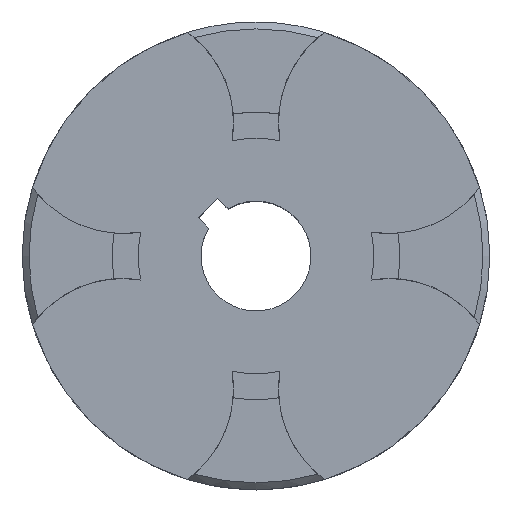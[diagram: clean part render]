
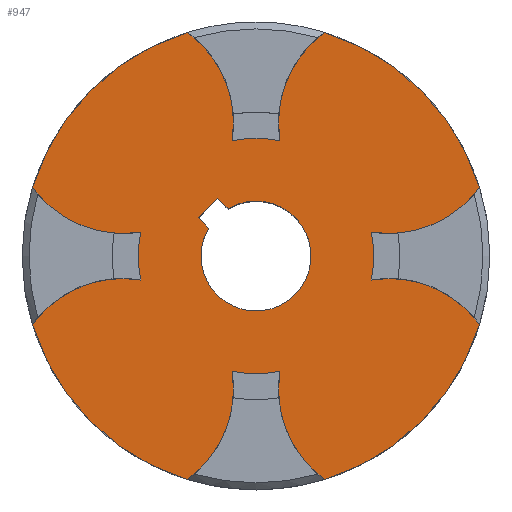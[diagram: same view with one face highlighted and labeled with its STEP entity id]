
A CAD part, top view. The second image highlights one B-rep face of the part: STEP entity #947.
In plain terms, the highlighted planar face has unit normal (0, 0, 1).
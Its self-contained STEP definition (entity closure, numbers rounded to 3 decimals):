
#30=CARTESIAN_POINT('',(-38.537,-38.537,0.));
#31=DIRECTION('',(0.,0.,-1.));
#32=DIRECTION('',(0.986,0.164,0.));
#33=AXIS2_PLACEMENT_3D('',#30,#31,#32);
#35=CARTESIAN_POINT('',(0.,0.,0.));
#36=DIRECTION('',(0.,0.,-1.));
#37=DIRECTION('',(-0.293,-0.956,0.));
#38=AXIS2_PLACEMENT_3D('',#35,#36,#37);
#40=CARTESIAN_POINT('',(-38.537,-38.537,0.));
#41=DIRECTION('',(0.,0.,-1.));
#42=DIRECTION('',(-0.811,0.585,0.));
#43=AXIS2_PLACEMENT_3D('',#40,#41,#42);
#45=CARTESIAN_POINT('',(-38.537,38.537,0.));
#46=DIRECTION('',(0.,0.,-1.));
#47=DIRECTION('',(0.164,-0.986,0.));
#48=AXIS2_PLACEMENT_3D('',#45,#46,#47);
#50=CARTESIAN_POINT('',(0.,0.,0.));
#51=DIRECTION('',(0.,0.,-1.));
#52=DIRECTION('',(-0.956,0.293,0.));
#53=AXIS2_PLACEMENT_3D('',#50,#51,#52);
#55=CARTESIAN_POINT('',(-38.537,38.537,0.));
#56=DIRECTION('',(0.,0.,-1.));
#57=DIRECTION('',(0.585,0.811,0.));
#58=AXIS2_PLACEMENT_3D('',#55,#56,#57);
#60=CARTESIAN_POINT('',(38.537,38.537,0.));
#61=DIRECTION('',(0.,0.,-1.));
#62=DIRECTION('',(-0.986,-0.164,0.));
#63=AXIS2_PLACEMENT_3D('',#60,#61,#62);
#65=CARTESIAN_POINT('',(0.,0.,0.));
#66=DIRECTION('',(0.,0.,-1.));
#67=DIRECTION('',(0.293,0.956,0.));
#68=AXIS2_PLACEMENT_3D('',#65,#66,#67);
#70=CARTESIAN_POINT('',(38.537,38.537,0.));
#71=DIRECTION('',(0.,0.,-1.));
#72=DIRECTION('',(0.811,-0.585,0.));
#73=AXIS2_PLACEMENT_3D('',#70,#71,#72);
#75=CARTESIAN_POINT('',(38.537,-38.537,0.));
#76=DIRECTION('',(0.,0.,-1.));
#77=DIRECTION('',(-0.164,0.986,0.));
#78=AXIS2_PLACEMENT_3D('',#75,#76,#77);
#80=CARTESIAN_POINT('',(0.,0.,0.));
#81=DIRECTION('',(0.,0.,-1.));
#82=DIRECTION('',(0.956,-0.293,0.));
#83=AXIS2_PLACEMENT_3D('',#80,#81,#82);
#85=CARTESIAN_POINT('',(38.537,-38.537,0.));
#86=DIRECTION('',(0.,0.,-1.));
#87=DIRECTION('',(-0.585,-0.811,0.));
#88=AXIS2_PLACEMENT_3D('',#85,#86,#87);
#90=DIRECTION('',(-0.707,0.707,0.));
#91=VECTOR('',#90,4.253);
#92=CARTESIAN_POINT('',(-13.673,8.066,0.));
#93=LINE('',#92,#91);
#94=DIRECTION('',(0.707,-0.707,0.));
#95=VECTOR('',#94,4.253);
#96=CARTESIAN_POINT('',(-11.073,16.681,0.));
#97=LINE('',#96,#95);
#98=DIRECTION('',(0.707,0.707,0.));
#99=VECTOR('',#98,7.93);
#100=CARTESIAN_POINT('',(-16.681,11.073,0.));
#101=LINE('',#100,#99);
#115=CARTESIAN_POINT('',(0.,0.,0.));
#116=DIRECTION('',(0.,0.,1.));
#117=DIRECTION('',(-0.204,-0.979,0.));
#118=AXIS2_PLACEMENT_3D('',#115,#116,#117);
#124=CARTESIAN_POINT('',(0.,0.,0.));
#125=DIRECTION('',(0.,0.,1.));
#126=DIRECTION('',(0.979,-0.204,0.));
#127=AXIS2_PLACEMENT_3D('',#124,#125,#126);
#151=CARTESIAN_POINT('',(0.,0.,0.));
#152=DIRECTION('',(0.,0.,1.));
#153=DIRECTION('',(-0.979,0.204,0.));
#154=AXIS2_PLACEMENT_3D('',#151,#152,#153);
#169=CARTESIAN_POINT('',(0.,0.,0.));
#170=DIRECTION('',(0.,0.,1.));
#171=DIRECTION('',(0.204,0.979,0.));
#172=AXIS2_PLACEMENT_3D('',#169,#170,#171);
#670=CARTESIAN_POINT('',(0.,0.,0.));
#671=DIRECTION('',(0.,0.,-1.));
#672=DIRECTION('',(-0.508,0.861,0.));
#673=AXIS2_PLACEMENT_3D('',#670,#671,#672);
#688=CARTESIAN_POINT('',(64.533,19.791,0.));
#690=VERTEX_POINT('',#688);
#692=CARTESIAN_POINT('',(19.791,64.533,0.));
#694=VERTEX_POINT('',#692);
#711=CARTESIAN_POINT('',(33.288,6.92,0.));
#712=VERTEX_POINT('',#711);
#713=CARTESIAN_POINT('',(6.92,33.288,0.));
#714=VERTEX_POINT('',#713);
#735=CARTESIAN_POINT('',(-13.673,8.066,0.));
#736=CARTESIAN_POINT('',(-16.681,11.073,0.));
#737=VERTEX_POINT('',#735);
#738=VERTEX_POINT('',#736);
#739=CARTESIAN_POINT('',(-11.073,16.681,0.));
#740=VERTEX_POINT('',#739);
#741=CARTESIAN_POINT('',(-8.066,13.673,0.));
#742=VERTEX_POINT('',#741);
#767=CARTESIAN_POINT('',(64.533,-19.791,0.));
#768=CARTESIAN_POINT('',(19.791,-64.533,0.));
#769=VERTEX_POINT('',#767);
#770=VERTEX_POINT('',#768);
#823=CARTESIAN_POINT('',(6.92,-33.288,0.));
#824=VERTEX_POINT('',#823);
#825=CARTESIAN_POINT('',(33.288,-6.92,0.));
#826=VERTEX_POINT('',#825);
#827=CARTESIAN_POINT('',(-33.288,-6.92,0.));
#828=VERTEX_POINT('',#827);
#829=CARTESIAN_POINT('',(-6.92,-33.288,0.));
#830=VERTEX_POINT('',#829);
#831=CARTESIAN_POINT('',(-6.92,33.288,0.));
#832=VERTEX_POINT('',#831);
#833=CARTESIAN_POINT('',(-33.288,6.92,0.));
#834=VERTEX_POINT('',#833);
#835=CARTESIAN_POINT('',(-19.791,-64.533,0.));
#836=CARTESIAN_POINT('',(-64.533,-19.791,0.));
#837=VERTEX_POINT('',#835);
#838=VERTEX_POINT('',#836);
#843=CARTESIAN_POINT('',(-64.533,19.791,0.));
#844=CARTESIAN_POINT('',(-19.791,64.533,0.));
#845=VERTEX_POINT('',#843);
#846=VERTEX_POINT('',#844);
#900=CARTESIAN_POINT('',(0.,0.,0.));
#901=DIRECTION('',(0.,0.,-1.));
#902=DIRECTION('',(0.,-1.,0.));
#903=AXIS2_PLACEMENT_3D('',#900,#901,#902);
#904=PLANE('',#903);
#906=ORIENTED_EDGE('',*,*,#905,.F.);
#908=ORIENTED_EDGE('',*,*,#907,.T.);
#909=ORIENTED_EDGE('',*,*,#874,.T.);
#911=ORIENTED_EDGE('',*,*,#910,.T.);
#913=ORIENTED_EDGE('',*,*,#912,.F.);
#915=ORIENTED_EDGE('',*,*,#914,.T.);
#916=ORIENTED_EDGE('',*,*,#889,.T.);
#918=ORIENTED_EDGE('',*,*,#917,.T.);
#920=ORIENTED_EDGE('',*,*,#919,.F.);
#922=ORIENTED_EDGE('',*,*,#921,.T.);
#924=ORIENTED_EDGE('',*,*,#923,.T.);
#926=ORIENTED_EDGE('',*,*,#925,.T.);
#928=ORIENTED_EDGE('',*,*,#927,.F.);
#930=ORIENTED_EDGE('',*,*,#929,.T.);
#932=ORIENTED_EDGE('',*,*,#931,.T.);
#934=ORIENTED_EDGE('',*,*,#933,.T.);
#935=EDGE_LOOP('',(#906,#908,#909,#911,#913,#915,#916,#918,#920,#922,#924,#926,
#928,#930,#932,#934));
#936=FACE_OUTER_BOUND('',#935,.F.);
#938=ORIENTED_EDGE('',*,*,#937,.F.);
#940=ORIENTED_EDGE('',*,*,#939,.F.);
#942=ORIENTED_EDGE('',*,*,#941,.F.);
#944=ORIENTED_EDGE('',*,*,#943,.F.);
#945=EDGE_LOOP('',(#938,#940,#942,#944));
#946=FACE_BOUND('',#945,.F.);
#947=ADVANCED_FACE('',(#936,#946),#904,.F.);
#34=CIRCLE('',#33,32.05);
#39=CIRCLE('',#38,67.5);
#44=CIRCLE('',#43,32.05);
#49=CIRCLE('',#48,32.05);
#54=CIRCLE('',#53,67.5);
#59=CIRCLE('',#58,32.05);
#64=CIRCLE('',#63,32.05);
#69=CIRCLE('',#68,67.5);
#74=CIRCLE('',#73,32.05);
#79=CIRCLE('',#78,32.05);
#84=CIRCLE('',#83,67.5);
#89=CIRCLE('',#88,32.05);
#119=CIRCLE('',#118,34.);
#128=CIRCLE('',#127,34.);
#155=CIRCLE('',#154,34.);
#173=CIRCLE('',#172,34.);
#674=CIRCLE('',#673,15.875);
#874=EDGE_CURVE('',#837,#838,#39,.T.);
#889=EDGE_CURVE('',#845,#846,#54,.T.);
#905=EDGE_CURVE('',#830,#824,#119,.T.);
#907=EDGE_CURVE('',#830,#837,#34,.T.);
#910=EDGE_CURVE('',#838,#828,#44,.T.);
#912=EDGE_CURVE('',#834,#828,#155,.T.);
#914=EDGE_CURVE('',#834,#845,#49,.T.);
#917=EDGE_CURVE('',#846,#832,#59,.T.);
#919=EDGE_CURVE('',#714,#832,#173,.T.);
#921=EDGE_CURVE('',#714,#694,#64,.T.);
#923=EDGE_CURVE('',#694,#690,#69,.T.);
#925=EDGE_CURVE('',#690,#712,#74,.T.);
#927=EDGE_CURVE('',#826,#712,#128,.T.);
#929=EDGE_CURVE('',#826,#769,#79,.T.);
#931=EDGE_CURVE('',#769,#770,#84,.T.);
#933=EDGE_CURVE('',#770,#824,#89,.T.);
#937=EDGE_CURVE('',#737,#738,#93,.T.);
#939=EDGE_CURVE('',#742,#737,#674,.T.);
#941=EDGE_CURVE('',#740,#742,#97,.T.);
#943=EDGE_CURVE('',#738,#740,#101,.T.);
